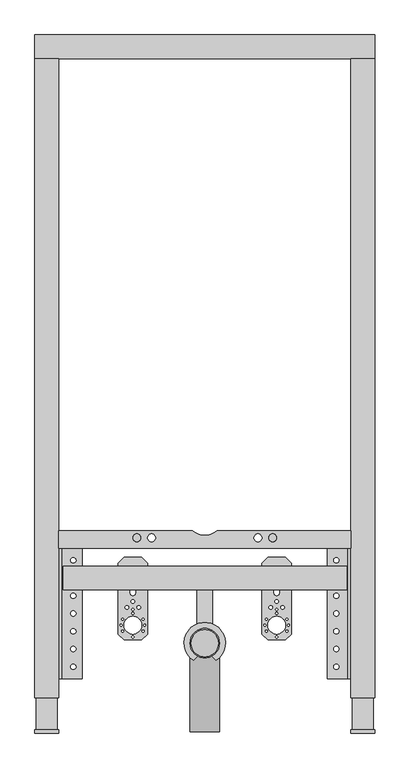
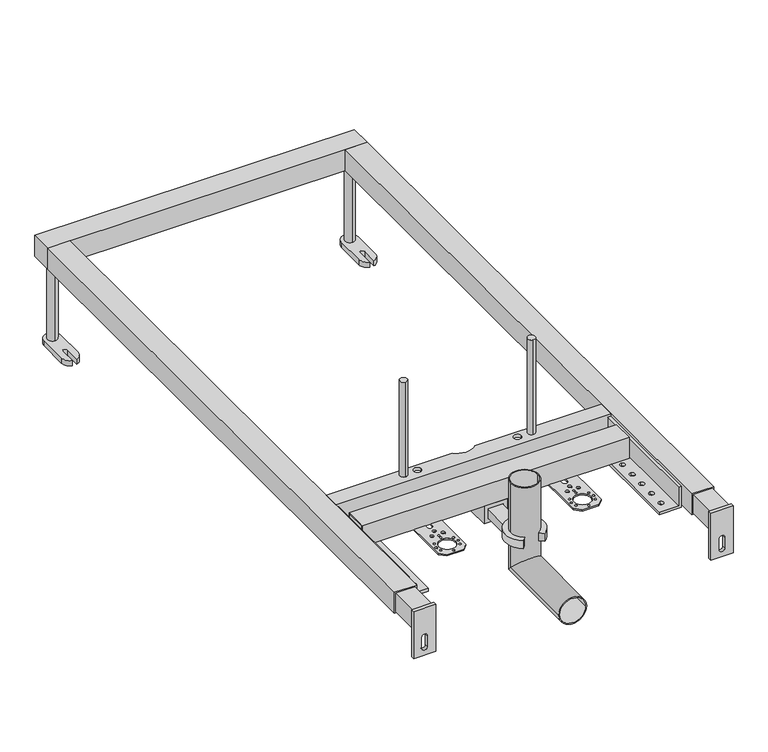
"""IFC4 building model written with IfcOpenShell, lengths in millimetres: sanitary terminal geometry, RSen_74_PF_FB_built in element bidet_wisa : bidet element_wisa_built in element bidet."""

from ifc_helpers import new_model, si_unit, point, frame, frame_2d, origin, origin_with_axes, place, context, project, spatial, polyline, circle_curve, ellipse_curve, trimmed, segment, composite_curve, outline, extrude, source, transform, mapped, element, save
from ifc_brep_helpers import plane_surface, cylinder_surface, revolved_surface, advanced_brep


def sanitary_terminal_e5c127ae(model_context):
    return source(origin(), model_context, "Body", "SolidModel", [
        advanced_brep(
        [(-25.0270797, 152.0, 260.0), (25.0270797, 152.0, 260.0), (-23.0, 152.0, 260.0), (23.0, 152.0, 260.0), (-25.0270797, 152.0, 100.0), (25.0270797, 152.0, 100.0), (-23.0, 152.0, 100.0), (23.0, 152.0, 100.0), (-25.0270797, 2.0, 100.0), (25.0270797, 2.0, 100.0), (-23.0, 2.0, 100.0), (23.0, 2.0, 100.0)],
        [
            (0, 1, circle_curve(frame((0.0, 152.0, 260.0), z_axis=(0.0, 0.0, 1.0), x_axis=(1.0, 0.0, 0.0)), 25.0270797)),
            (1, 0, circle_curve(frame((0.0, 152.0, 260.0), z_axis=(0.0, 0.0, 1.0), x_axis=(1.0, 0.0, 0.0)), 25.0270797)),
            (2, 3, circle_curve(frame((0.0, 152.0, 260.0), z_axis=(0.0, 0.0, -1.0), x_axis=(1.0, 0.0, 0.0)), 23.0)),
            (3, 2, circle_curve(frame((0.0, 152.0, 260.0), z_axis=(0.0, 0.0, -1.0), x_axis=(1.0, 0.0, 0.0)), 23.0)),
            (0, 4),
            (4, 5, ellipse_curve(frame((0.0, 152.0, 100.0), z_axis=(0.0, 0.7071067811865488, 0.7071067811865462), x_axis=(0.0, -0.7071067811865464, 0.7071067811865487)), 35.3936355, 25.0270797)),
            (5, 1),
            (5, 4, ellipse_curve(frame((0.0, 152.0, 100.0), z_axis=(0.0, 0.7071067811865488, 0.7071067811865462), x_axis=(0.0, -0.7071067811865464, 0.7071067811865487)), 35.3936355, 25.0270797)),
            (2, 6),
            (6, 7, ellipse_curve(frame((0.0, 152.0, 100.0), z_axis=(0.0, -0.7071067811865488, -0.7071067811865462), x_axis=(0.0, 0.7071067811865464, -0.7071067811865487)), 32.5269119, 23.0)),
            (7, 3),
            (7, 6, ellipse_curve(frame((0.0, 152.0, 100.0), z_axis=(0.0, -0.7071067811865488, -0.7071067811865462), x_axis=(0.0, 0.7071067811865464, -0.7071067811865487)), 32.5269119, 23.0)),
            (8, 9, circle_curve(frame((0.0, 2.0, 100.0), z_axis=(0.0, -1.0, 0.0), x_axis=(1.0, 0.0, 0.0)), 25.0270797)),
            (9, 8, circle_curve(frame((0.0, 2.0, 100.0), z_axis=(0.0, -1.0, 0.0), x_axis=(1.0, 0.0, 0.0)), 25.0270797)),
            (10, 11, circle_curve(frame((0.0, 2.0, 100.0), z_axis=(0.0, 1.0, 0.0), x_axis=(1.0, 0.0, 0.0)), 23.0)),
            (11, 10, circle_curve(frame((0.0, 2.0, 100.0), z_axis=(0.0, 1.0, 0.0), x_axis=(1.0, 0.0, 0.0)), 23.0)),
            (4, 8),
            (9, 5),
            (6, 10),
            (11, 7),
        ],
        [
            plane_surface(frame((0.0, 152.0, 260.0), z_axis=(0.0, 0.0, 1.0), x_axis=(1.0, 0.0, 0.0))),
            cylinder_surface(frame((0.0, 152.0, 260.0), z_axis=(0.0, 0.0, 1.0), x_axis=(1.0, 0.0, 0.0)), 25.0270797),
            revolved_surface(polyline([(23.0, 152.0, 77.00000002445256), (23.0, 152.0, 260.0)]), (0.0, 152.0, 260.0), (0.0, 0.0, -1.0)),
            plane_surface(frame((0.0, 2.0, 100.0), z_axis=(0.0, -1.0, 0.0), x_axis=(1.0, 0.0, 0.0))),
            cylinder_surface(frame((0.0, 152.0, 100.0), z_axis=(0.0, 1.0, 0.0), x_axis=(1.0, 0.0, 0.0)), 25.0270797),
            revolved_surface(polyline([(23.0, 2.0, 100.0), (23.0, 174.99999997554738, 100.0)]), (0.0, 152.0, 100.0), (0.0, -1.0, 0.0)),
        ],
        [
            (0, [[1, 2], [3, 4]]),
            (1, [[-1, 5, 6, 7]]),
            (1, [[-2, -7, 8, -5]]),
            (2, [[-3, 9, 10, 11]]),
            (2, [[-4, -11, 12, -9]]),
            (3, [[13, 14], [15, 16]]),
            (4, [[-6, 17, -14, 18]]),
            (4, [[-8, -18, -13, -17]]),
            (5, [[-10, 19, -16, 20]]),
            (5, [[-12, -20, -15, -19]]),
        ],
    ),
        extrude(outline(composite_curve([segment(polyline([(19.3630713, 122.8678832), (12.1158534, 130.1233388)]), True, "CONTINUOUS"), segment(trimmed(circle_curve(frame_2d((0.0376615, 152.0)), 24.9894182), [point((12.1158534, 130.1233388))], [point((-12.1911763, 130.2071904))], True, "CARTESIAN"), True, "CONTINUOUS"), segment(polyline([(-12.1911763, 130.2071904), (-19.3630713, 122.8678832)]), True, "CONTINUOUS"), segment(trimmed(circle_curve(frame_2d((0.0, 152.0238683)), 35.0), [point((-19.3630713, 122.8678832))], [point((19.3630713, 122.8678832))], False, "CARTESIAN"), True, "CONTINUOUS")], self_intersect=False)), frame((0.0, 0.0, 151.25), z_axis=(0.0, 0.0, 1.0), x_axis=(1.0, 0.0, 0.0)), (0.0, 0.0, 1.0), 15.0),
        extrude(outline(polyline([(-13.5, 282.0), (13.5, 282.0), (13.5, 182.0), (-13.5, 182.0), (-13.5, 282.0)])), frame((0.0, 0.0, 135.25), z_axis=(0.0, 0.0, 1.0), x_axis=(1.0, 0.0, 0.0)), (0.0, 0.0, 1.0), 16.0),
        extrude(outline(polyline([(160.0, -20.75), (126.5, -20.75), (126.5, 20.75), (160.0, 20.75), (160.0, -20.75)]), holes=[polyline([(152.5, -13.75), (152.5, 13.75), (134.0, 13.75), (134.0, -13.75), (152.5, -13.75)])]), frame((0.0, 242.0, 0.0), z_axis=(0.0, 1.0, 0.0), x_axis=(0.0, 0.0, 1.0)), (0.0, 0.0, 1.0), 40.0),
        extrude(outline(polyline([(-106.6959866, 297.357712), (-96.6959866, 287.357712), (-96.6959866, 167.357712), (-106.6959866, 157.357712), (-136.6959866, 157.357712), (-146.6959866, 167.357712), (-146.6959866, 287.357712), (-136.6959866, 297.357712), (-106.6959866, 297.357712)]), holes=[composite_curve([segment(trimmed(circle_curve(frame_2d((-121.6959866, 277.857712)), 4.5), [point((-117.1959866, 277.857712))], [point((-126.1959866, 277.857712))], True, "CARTESIAN"), True, "CONTINUOUS"), segment(polyline([(-126.1959866, 277.857712), (-126.1959866, 236.857712)]), True, "CONTINUOUS"), segment(trimmed(circle_curve(frame_2d((-121.6959866, 236.857712)), 4.5), [point((-126.1959866, 236.857712))], [point((-117.1959866, 236.857712))], True, "CARTESIAN"), True, "CONTINUOUS"), segment(polyline([(-117.1959866, 236.857712), (-117.1959866, 277.857712)]), True, "CONTINUOUS")], self_intersect=False), composite_curve([segment(trimmed(circle_curve(frame_2d((-121.6959866, 182.357712)), 15.0), [point((-106.6959866, 182.357712))], [point((-136.6959866, 182.357712))], True, "CARTESIAN"), True, "CONTINUOUS"), segment(trimmed(circle_curve(frame_2d((-121.6959866, 182.357712)), 15.0), [point((-136.6959866, 182.357712))], [point((-106.6959866, 182.357712))], True, "CARTESIAN"), True, "CONTINUOUS")], self_intersect=False), composite_curve([segment(trimmed(circle_curve(frame_2d((-101.6959866, 182.357712)), 1.75), [point((-99.9459866, 182.357712))], [point((-103.4459866, 182.357712))], True, "CARTESIAN"), True, "CONTINUOUS"), segment(trimmed(circle_curve(frame_2d((-101.6959866, 182.357712)), 1.75), [point((-103.4459866, 182.357712))], [point((-99.9459866, 182.357712))], True, "CARTESIAN"), True, "CONTINUOUS")], self_intersect=False), composite_curve([segment(trimmed(circle_curve(frame_2d((-121.6959866, 162.357712)), 1.75), [point((-119.9459866, 162.357712))], [point((-123.4459866, 162.357712))], True, "CARTESIAN"), True, "CONTINUOUS"), segment(trimmed(circle_curve(frame_2d((-121.6959866, 162.357712)), 1.75), [point((-123.4459866, 162.357712))], [point((-119.9459866, 162.357712))], True, "CARTESIAN"), True, "CONTINUOUS")], self_intersect=False), composite_curve([segment(trimmed(circle_curve(frame_2d((-141.6959866, 182.357712)), 1.75), [point((-139.9459866, 182.357712))], [point((-143.4459866, 182.357712))], True, "CARTESIAN"), True, "CONTINUOUS"), segment(trimmed(circle_curve(frame_2d((-141.6959866, 182.357712)), 1.75), [point((-143.4459866, 182.357712))], [point((-139.9459866, 182.357712))], True, "CARTESIAN"), True, "CONTINUOUS")], self_intersect=False), composite_curve([segment(trimmed(circle_curve(frame_2d((-121.6959866, 202.357712)), 1.75), [point((-119.9459866, 202.357712))], [point((-123.4459866, 202.357712))], True, "CARTESIAN"), True, "CONTINUOUS"), segment(trimmed(circle_curve(frame_2d((-121.6959866, 202.357712)), 1.75), [point((-123.4459866, 202.357712))], [point((-119.9459866, 202.357712))], True, "CARTESIAN"), True, "CONTINUOUS")], self_intersect=False), composite_curve([segment(trimmed(circle_curve(frame_2d((-139.0164947, 192.357712)), 1.75), [point((-137.2664947, 192.357712))], [point((-140.7664947, 192.357712))], True, "CARTESIAN"), True, "CONTINUOUS"), segment(trimmed(circle_curve(frame_2d((-139.0164947, 192.357712)), 1.75), [point((-140.7664947, 192.357712))], [point((-137.2664947, 192.357712))], True, "CARTESIAN"), True, "CONTINUOUS")], self_intersect=False), composite_curve([segment(trimmed(circle_curve(frame_2d((-139.0164947, 172.357712)), 1.75), [point((-137.2664947, 172.357712))], [point((-140.7664947, 172.357712))], True, "CARTESIAN"), True, "CONTINUOUS"), segment(trimmed(circle_curve(frame_2d((-139.0164947, 172.357712)), 1.75), [point((-140.7664947, 172.357712))], [point((-137.2664947, 172.357712))], True, "CARTESIAN"), True, "CONTINUOUS")], self_intersect=False), composite_curve([segment(trimmed(circle_curve(frame_2d((-104.3754785, 192.357712)), 1.75), [point((-102.6254785, 192.357712))], [point((-106.1254785, 192.357712))], True, "CARTESIAN"), True, "CONTINUOUS"), segment(trimmed(circle_curve(frame_2d((-104.3754785, 192.357712)), 1.75), [point((-106.1254785, 192.357712))], [point((-102.6254785, 192.357712))], True, "CARTESIAN"), True, "CONTINUOUS")], self_intersect=False), composite_curve([segment(trimmed(circle_curve(frame_2d((-104.3754785, 172.357712)), 1.75), [point((-102.6254785, 172.357712))], [point((-106.1254785, 172.357712))], True, "CARTESIAN"), True, "CONTINUOUS"), segment(trimmed(circle_curve(frame_2d((-104.3754785, 172.357712)), 1.75), [point((-106.1254785, 172.357712))], [point((-102.6254785, 172.357712))], True, "CARTESIAN"), True, "CONTINUOUS")], self_intersect=False), composite_curve([segment(trimmed(circle_curve(frame_2d((-111.6959866, 212.357712)), 3.0), [point((-108.6959866, 212.357712))], [point((-114.6959866, 212.357712))], True, "CARTESIAN"), True, "CONTINUOUS"), segment(trimmed(circle_curve(frame_2d((-111.6959866, 212.357712)), 3.0), [point((-114.6959866, 212.357712))], [point((-108.6959866, 212.357712))], True, "CARTESIAN"), True, "CONTINUOUS")], self_intersect=False), composite_curve([segment(trimmed(circle_curve(frame_2d((-121.6959866, 222.357712)), 3.0), [point((-118.6959866, 222.357712))], [point((-124.6959866, 222.357712))], True, "CARTESIAN"), True, "CONTINUOUS"), segment(trimmed(circle_curve(frame_2d((-121.6959866, 222.357712)), 3.0), [point((-124.6959866, 222.357712))], [point((-118.6959866, 222.357712))], True, "CARTESIAN"), True, "CONTINUOUS")], self_intersect=False), composite_curve([segment(trimmed(circle_curve(frame_2d((-131.6959866, 212.357712)), 3.0), [point((-128.6959866, 212.357712))], [point((-134.6959866, 212.357712))], True, "CARTESIAN"), True, "CONTINUOUS"), segment(trimmed(circle_curve(frame_2d((-131.6959866, 212.357712)), 3.0), [point((-134.6959866, 212.357712))], [point((-128.6959866, 212.357712))], True, "CARTESIAN"), True, "CONTINUOUS")], self_intersect=False), composite_curve([segment(trimmed(circle_curve(frame_2d((-121.6959866, 208.857712)), 1.75), [point((-119.9459866, 208.857712))], [point((-123.4459866, 208.857712))], True, "CARTESIAN"), True, "CONTINUOUS"), segment(trimmed(circle_curve(frame_2d((-121.6959866, 208.857712)), 1.75), [point((-123.4459866, 208.857712))], [point((-119.9459866, 208.857712))], True, "CARTESIAN"), True, "CONTINUOUS")], self_intersect=False)]), frame((0.0, 0.0, 157.5), z_axis=(0.0, 0.0, 1.0), x_axis=(1.0, 0.0, 0.0)), (0.0, 0.0, 1.0), 2.5),
        extrude(outline(polyline([(106.6959866, 297.357712), (136.6959866, 297.357712), (146.6959866, 287.357712), (146.6959866, 167.357712), (136.6959866, 157.357712), (106.6959866, 157.357712), (96.6959866, 167.357712), (96.6959866, 287.357712), (106.6959866, 297.357712)]), holes=[composite_curve([segment(polyline([(117.1959866, 277.857712), (117.1959866, 236.857712)]), True, "CONTINUOUS"), segment(trimmed(circle_curve(frame_2d((121.6959866, 236.857712)), 4.5), [point((117.1959866, 236.857712))], [point((126.1959866, 236.857712))], True, "CARTESIAN"), True, "CONTINUOUS"), segment(polyline([(126.1959866, 236.857712), (126.1959866, 277.857712)]), True, "CONTINUOUS"), segment(trimmed(circle_curve(frame_2d((121.6959866, 277.857712)), 4.5), [point((126.1959866, 277.857712))], [point((117.1959866, 277.857712))], True, "CARTESIAN"), True, "CONTINUOUS")], self_intersect=False), composite_curve([segment(trimmed(circle_curve(frame_2d((121.6959866, 182.357712)), 15.0), [point((136.6959866, 182.357712))], [point((106.6959866, 182.357712))], True, "CARTESIAN"), True, "CONTINUOUS"), segment(trimmed(circle_curve(frame_2d((121.6959866, 182.357712)), 15.0), [point((106.6959866, 182.357712))], [point((136.6959866, 182.357712))], True, "CARTESIAN"), True, "CONTINUOUS")], self_intersect=False), composite_curve([segment(trimmed(circle_curve(frame_2d((101.6959866, 182.357712)), 1.75), [point((103.4459866, 182.357712))], [point((99.9459866, 182.357712))], True, "CARTESIAN"), True, "CONTINUOUS"), segment(trimmed(circle_curve(frame_2d((101.6959866, 182.357712)), 1.75), [point((99.9459866, 182.357712))], [point((103.4459866, 182.357712))], True, "CARTESIAN"), True, "CONTINUOUS")], self_intersect=False), composite_curve([segment(trimmed(circle_curve(frame_2d((121.6959866, 162.357712)), 1.75), [point((123.4459866, 162.357712))], [point((119.9459866, 162.357712))], True, "CARTESIAN"), True, "CONTINUOUS"), segment(trimmed(circle_curve(frame_2d((121.6959866, 162.357712)), 1.75), [point((119.9459866, 162.357712))], [point((123.4459866, 162.357712))], True, "CARTESIAN"), True, "CONTINUOUS")], self_intersect=False), composite_curve([segment(trimmed(circle_curve(frame_2d((141.6959866, 182.357712)), 1.75), [point((143.4459866, 182.357712))], [point((139.9459866, 182.357712))], True, "CARTESIAN"), True, "CONTINUOUS"), segment(trimmed(circle_curve(frame_2d((141.6959866, 182.357712)), 1.75), [point((139.9459866, 182.357712))], [point((143.4459866, 182.357712))], True, "CARTESIAN"), True, "CONTINUOUS")], self_intersect=False), composite_curve([segment(trimmed(circle_curve(frame_2d((121.6959866, 202.357712)), 1.75), [point((123.4459866, 202.357712))], [point((119.9459866, 202.357712))], True, "CARTESIAN"), True, "CONTINUOUS"), segment(trimmed(circle_curve(frame_2d((121.6959866, 202.357712)), 1.75), [point((119.9459866, 202.357712))], [point((123.4459866, 202.357712))], True, "CARTESIAN"), True, "CONTINUOUS")], self_intersect=False), composite_curve([segment(trimmed(circle_curve(frame_2d((139.0164947, 192.357712)), 1.75), [point((140.7664947, 192.357712))], [point((137.2664947, 192.357712))], True, "CARTESIAN"), True, "CONTINUOUS"), segment(trimmed(circle_curve(frame_2d((139.0164947, 192.357712)), 1.75), [point((137.2664947, 192.357712))], [point((140.7664947, 192.357712))], True, "CARTESIAN"), True, "CONTINUOUS")], self_intersect=False), composite_curve([segment(trimmed(circle_curve(frame_2d((139.0164947, 172.357712)), 1.75), [point((140.7664947, 172.357712))], [point((137.2664947, 172.357712))], True, "CARTESIAN"), True, "CONTINUOUS"), segment(trimmed(circle_curve(frame_2d((139.0164947, 172.357712)), 1.75), [point((137.2664947, 172.357712))], [point((140.7664947, 172.357712))], True, "CARTESIAN"), True, "CONTINUOUS")], self_intersect=False), composite_curve([segment(trimmed(circle_curve(frame_2d((104.3754785, 192.357712)), 1.75), [point((106.1254785, 192.357712))], [point((102.6254785, 192.357712))], True, "CARTESIAN"), True, "CONTINUOUS"), segment(trimmed(circle_curve(frame_2d((104.3754785, 192.357712)), 1.75), [point((102.6254785, 192.357712))], [point((106.1254785, 192.357712))], True, "CARTESIAN"), True, "CONTINUOUS")], self_intersect=False), composite_curve([segment(trimmed(circle_curve(frame_2d((104.3754785, 172.357712)), 1.75), [point((106.1254785, 172.357712))], [point((102.6254785, 172.357712))], True, "CARTESIAN"), True, "CONTINUOUS"), segment(trimmed(circle_curve(frame_2d((104.3754785, 172.357712)), 1.75), [point((102.6254785, 172.357712))], [point((106.1254785, 172.357712))], True, "CARTESIAN"), True, "CONTINUOUS")], self_intersect=False), composite_curve([segment(trimmed(circle_curve(frame_2d((111.6959866, 212.357712)), 3.0), [point((114.6959866, 212.357712))], [point((108.6959866, 212.357712))], True, "CARTESIAN"), True, "CONTINUOUS"), segment(trimmed(circle_curve(frame_2d((111.6959866, 212.357712)), 3.0), [point((108.6959866, 212.357712))], [point((114.6959866, 212.357712))], True, "CARTESIAN"), True, "CONTINUOUS")], self_intersect=False), composite_curve([segment(trimmed(circle_curve(frame_2d((121.6959866, 222.357712)), 3.0), [point((124.6959866, 222.357712))], [point((118.6959866, 222.357712))], True, "CARTESIAN"), True, "CONTINUOUS"), segment(trimmed(circle_curve(frame_2d((121.6959866, 222.357712)), 3.0), [point((118.6959866, 222.357712))], [point((124.6959866, 222.357712))], True, "CARTESIAN"), True, "CONTINUOUS")], self_intersect=False), composite_curve([segment(trimmed(circle_curve(frame_2d((131.6959866, 212.357712)), 3.0), [point((134.6959866, 212.357712))], [point((128.6959866, 212.357712))], True, "CARTESIAN"), True, "CONTINUOUS"), segment(trimmed(circle_curve(frame_2d((131.6959866, 212.357712)), 3.0), [point((128.6959866, 212.357712))], [point((134.6959866, 212.357712))], True, "CARTESIAN"), True, "CONTINUOUS")], self_intersect=False), composite_curve([segment(trimmed(circle_curve(frame_2d((121.6959866, 208.857712)), 1.75), [point((123.4459866, 208.857712))], [point((119.9459866, 208.857712))], True, "CARTESIAN"), True, "CONTINUOUS"), segment(trimmed(circle_curve(frame_2d((121.6959866, 208.857712)), 1.75), [point((119.9459866, 208.857712))], [point((123.4459866, 208.857712))], True, "CARTESIAN"), True, "CONTINUOUS")], self_intersect=False)]), frame((0.0, 0.0, 157.5), z_axis=(0.0, 0.0, 1.0), x_axis=(1.0, 0.0, 0.0)), (0.0, 0.0, 1.0), 2.5),
        extrude(outline(composite_curve([segment(trimmed(circle_curve(frame_2d((-115.0, 330.0)), 6.65), [point((-115.0, 323.35))], [point((-115.0, 336.65))], False, "CARTESIAN"), True, "CONTINUOUS"), segment(trimmed(circle_curve(frame_2d((-115.0, 330.0)), 6.65), [point((-115.0, 336.65))], [point((-115.0, 323.35))], False, "CARTESIAN"), True, "CONTINUOUS")], self_intersect=False)), frame((0.0, 0.0, 200.0), z_axis=(0.0, 0.0, 1.0), x_axis=(1.0, 0.0, 0.0)), (0.0, 0.0, 1.0), 180.0),
        extrude(outline(composite_curve([segment(trimmed(circle_curve(frame_2d((115.0, 330.0)), 6.65), [point((115.0, 323.35))], [point((115.0, 336.65))], False, "CARTESIAN"), True, "CONTINUOUS"), segment(trimmed(circle_curve(frame_2d((115.0, 330.0)), 6.65), [point((115.0, 336.65))], [point((115.0, 323.35))], False, "CARTESIAN"), True, "CONTINUOUS")], self_intersect=False)), frame((0.0, 0.0, 200.0), z_axis=(0.0, 0.0, 1.0), x_axis=(1.0, 0.0, 0.0)), (0.0, 0.0, 1.0), 180.0),
        extrude(outline(polyline([(282.0, 200.0), (282.0, 160.0), (269.5, 160.0), (269.5, 161.5), (280.5, 161.5), (280.5, 198.5), (243.5, 198.5), (243.5, 161.5), (254.5, 161.5), (254.5, 160.0), (242.0, 160.0), (242.0, 200.0), (282.0, 200.0)])), frame((-240.0, 0.0, 0.0), z_axis=(1.0, 0.0, 0.0), x_axis=(0.0, 1.0, 0.0)), (0.0, 0.0, 1.0), 480.0),
        advanced_brep(
        [(-247.5, 92.0, 155.0), (-207.5, 92.0, 155.0), (-207.5, 92.0, 160.0), (-242.5, 92.0, 160.0), (-242.5, 92.0, 195.0), (-247.5, 92.0, 195.0), (-247.5, 312.0, 155.0), (-247.5, 312.0, 195.0), (-242.5, 312.0, 195.0), (-242.5, 312.0, 160.0), (-207.5, 312.0, 160.0), (-207.5, 312.0, 155.0), (-222.5, 116.5, 155.0), (-222.5, 107.5, 155.0), (-222.5, 146.5, 155.0), (-222.5, 137.5, 155.0), (-222.5, 176.5, 155.0), (-222.5, 167.5, 155.0), (-222.5, 206.5, 155.0), (-222.5, 197.5, 155.0), (-222.5, 236.5, 155.0), (-222.5, 227.5, 155.0), (-222.5, 266.5, 155.0), (-222.5, 257.5, 155.0), (-222.5, 296.5, 155.0), (-222.5, 287.5, 155.0), (-222.5, 107.5, 160.0), (-222.5, 116.5, 160.0), (-222.5, 137.5, 160.0), (-222.5, 146.5, 160.0), (-222.5, 167.5, 160.0), (-222.5, 176.5, 160.0), (-222.5, 197.5, 160.0), (-222.5, 206.5, 160.0), (-222.5, 227.5, 160.0), (-222.5, 236.5, 160.0), (-222.5, 257.5, 160.0), (-222.5, 266.5, 160.0), (-222.5, 287.5, 160.0), (-222.5, 296.5, 160.0)],
        [
            (0, 1),
            (1, 2),
            (2, 3),
            (3, 4),
            (4, 5),
            (5, 0),
            (6, 7),
            (7, 8),
            (8, 9),
            (9, 10),
            (10, 11),
            (11, 6),
            (0, 6),
            (11, 1),
            (12, 13, circle_curve(frame((-222.5, 112.0, 155.0), z_axis=(0.0, 0.0, 1.0), x_axis=(0.0, 1.0, 0.0)), 4.5)),
            (13, 12, circle_curve(frame((-222.5, 112.0, 155.0), z_axis=(0.0, 0.0, 1.0), x_axis=(0.0, 1.0, 0.0)), 4.5)),
            (14, 15, circle_curve(frame((-222.5, 142.0, 155.0), z_axis=(0.0, 0.0, 1.0), x_axis=(0.0, 1.0, 0.0)), 4.5)),
            (15, 14, circle_curve(frame((-222.5, 142.0, 155.0), z_axis=(0.0, 0.0, 1.0), x_axis=(0.0, 1.0, 0.0)), 4.5)),
            (16, 17, circle_curve(frame((-222.5, 172.0, 155.0), z_axis=(0.0, 0.0, 1.0), x_axis=(0.0, 1.0, 0.0)), 4.5)),
            (17, 16, circle_curve(frame((-222.5, 172.0, 155.0), z_axis=(0.0, 0.0, 1.0), x_axis=(0.0, 1.0, 0.0)), 4.5)),
            (18, 19, circle_curve(frame((-222.5, 202.0, 155.0), z_axis=(0.0, 0.0, 1.0), x_axis=(0.0, 1.0, 0.0)), 4.5)),
            (19, 18, circle_curve(frame((-222.5, 202.0, 155.0), z_axis=(0.0, 0.0, 1.0), x_axis=(0.0, 1.0, 0.0)), 4.5)),
            (20, 21, circle_curve(frame((-222.5, 232.0, 155.0), z_axis=(0.0, 0.0, 1.0), x_axis=(0.0, 1.0, 0.0)), 4.5)),
            (21, 20, circle_curve(frame((-222.5, 232.0, 155.0), z_axis=(0.0, 0.0, 1.0), x_axis=(0.0, 1.0, 0.0)), 4.5)),
            (22, 23, circle_curve(frame((-222.5, 262.0, 155.0), z_axis=(0.0, 0.0, 1.0), x_axis=(0.0, 1.0, 0.0)), 4.5)),
            (23, 22, circle_curve(frame((-222.5, 262.0, 155.0), z_axis=(0.0, 0.0, 1.0), x_axis=(0.0, 1.0, 0.0)), 4.5)),
            (24, 25, circle_curve(frame((-222.5, 292.0, 155.0), z_axis=(0.0, 0.0, 1.0), x_axis=(0.0, 1.0, 0.0)), 4.5)),
            (25, 24, circle_curve(frame((-222.5, 292.0, 155.0), z_axis=(0.0, 0.0, 1.0), x_axis=(0.0, 1.0, 0.0)), 4.5)),
            (10, 2),
            (9, 3),
            (26, 27, circle_curve(frame((-222.5, 112.0, 160.0), z_axis=(0.0, 0.0, -1.0), x_axis=(0.0, 1.0, 0.0)), 4.5)),
            (27, 26, circle_curve(frame((-222.5, 112.0, 160.0), z_axis=(0.0, 0.0, -1.0), x_axis=(0.0, 1.0, 0.0)), 4.5)),
            (28, 29, circle_curve(frame((-222.5, 142.0, 160.0), z_axis=(0.0, 0.0, -1.0), x_axis=(0.0, 1.0, 0.0)), 4.5)),
            (29, 28, circle_curve(frame((-222.5, 142.0, 160.0), z_axis=(0.0, 0.0, -1.0), x_axis=(0.0, 1.0, 0.0)), 4.5)),
            (30, 31, circle_curve(frame((-222.5, 172.0, 160.0), z_axis=(0.0, 0.0, -1.0), x_axis=(0.0, 1.0, 0.0)), 4.5)),
            (31, 30, circle_curve(frame((-222.5, 172.0, 160.0), z_axis=(0.0, 0.0, -1.0), x_axis=(0.0, 1.0, 0.0)), 4.5)),
            (32, 33, circle_curve(frame((-222.5, 202.0, 160.0), z_axis=(0.0, 0.0, -1.0), x_axis=(0.0, 1.0, 0.0)), 4.5)),
            (33, 32, circle_curve(frame((-222.5, 202.0, 160.0), z_axis=(0.0, 0.0, -1.0), x_axis=(0.0, 1.0, 0.0)), 4.5)),
            (34, 35, circle_curve(frame((-222.5, 232.0, 160.0), z_axis=(0.0, 0.0, -1.0), x_axis=(0.0, 1.0, 0.0)), 4.5)),
            (35, 34, circle_curve(frame((-222.5, 232.0, 160.0), z_axis=(0.0, 0.0, -1.0), x_axis=(0.0, 1.0, 0.0)), 4.5)),
            (36, 37, circle_curve(frame((-222.5, 262.0, 160.0), z_axis=(0.0, 0.0, -1.0), x_axis=(0.0, 1.0, 0.0)), 4.5)),
            (37, 36, circle_curve(frame((-222.5, 262.0, 160.0), z_axis=(0.0, 0.0, -1.0), x_axis=(0.0, 1.0, 0.0)), 4.5)),
            (38, 39, circle_curve(frame((-222.5, 292.0, 160.0), z_axis=(0.0, 0.0, -1.0), x_axis=(0.0, 1.0, 0.0)), 4.5)),
            (39, 38, circle_curve(frame((-222.5, 292.0, 160.0), z_axis=(0.0, 0.0, -1.0), x_axis=(0.0, 1.0, 0.0)), 4.5)),
            (8, 4),
            (7, 5),
            (12, 27),
            (26, 13),
            (14, 29),
            (28, 15),
            (16, 31),
            (30, 17),
            (18, 33),
            (32, 19),
            (20, 35),
            (34, 21),
            (22, 37),
            (36, 23),
            (24, 39),
            (38, 25),
        ],
        [
            plane_surface(frame((-247.5, 92.0, 155.0), z_axis=(0.0, -1.0, 0.0), x_axis=(1.0, 0.0, 0.0))),
            plane_surface(frame((-247.5, 312.0, 155.0), z_axis=(0.0, 1.0, 0.0), x_axis=(-1.0, 0.0, 0.0))),
            plane_surface(frame((-247.5, 92.0, 155.0), z_axis=(0.0, 0.0, -1.0), x_axis=(0.0, 1.0, 0.0))),
            plane_surface(frame((-207.5, 92.0, 155.0), z_axis=(1.0, 0.0, 0.0), x_axis=(0.0, 1.0, 0.0))),
            plane_surface(frame((-207.5, 92.0, 160.0), z_axis=(0.0, 0.0, 1.0), x_axis=(0.0, 1.0, 0.0))),
            plane_surface(frame((-242.5, 92.0, 160.0), z_axis=(1.0, 0.0, 0.0), x_axis=(0.0, 1.0, 0.0))),
            plane_surface(frame((-242.5, 92.0, 195.0), z_axis=(0.0, 0.0, 1.0), x_axis=(0.0, 1.0, 0.0))),
            plane_surface(frame((-247.5, 92.0, 195.0), z_axis=(-1.0, 0.0, 0.0), x_axis=(0.0, 1.0, 0.0))),
            revolved_surface(polyline([(-222.5, 116.5, 155.0), (-222.5, 116.5, 160.0)]), (-222.5, 112.0, 160.0), (0.0, 0.0, -1.0)),
            revolved_surface(polyline([(-222.5, 146.5, 155.0), (-222.5, 146.5, 160.0)]), (-222.5, 142.0, 160.0), (0.0, 0.0, -1.0)),
            revolved_surface(polyline([(-222.5, 176.5, 155.0), (-222.5, 176.5, 160.0)]), (-222.5, 172.0, 160.0), (0.0, 0.0, -1.0)),
            revolved_surface(polyline([(-222.5, 206.5, 155.0), (-222.5, 206.5, 160.0)]), (-222.5, 202.0, 160.0), (0.0, 0.0, -1.0)),
            revolved_surface(polyline([(-222.5, 236.5, 155.0), (-222.5, 236.5, 160.0)]), (-222.5, 232.0, 160.0), (0.0, 0.0, -1.0)),
            revolved_surface(polyline([(-222.5, 266.5, 155.0), (-222.5, 266.5, 160.0)]), (-222.5, 262.0, 160.0), (0.0, 0.0, -1.0)),
            revolved_surface(polyline([(-222.5, 296.5, 155.0), (-222.5, 296.5, 160.0)]), (-222.5, 292.0, 160.0), (0.0, 0.0, -1.0)),
        ],
        [
            (0, [[1, 2, 3, 4, 5, 6]]),
            (1, [[7, 8, 9, 10, 11, 12]]),
            (2, [[-1, 13, -12, 14], [15, 16], [17, 18], [19, 20], [21, 22], [23, 24], [25, 26], [27, 28]]),
            (3, [[-2, -14, -11, 29]]),
            (4, [[-3, -29, -10, 30], [31, 32], [33, 34], [35, 36], [37, 38], [39, 40], [41, 42], [43, 44]]),
            (5, [[-4, -30, -9, 45]]),
            (6, [[-5, -45, -8, 46]]),
            (7, [[-6, -46, -7, -13]]),
            (8, [[47, -31, 48, -15]]),
            (8, [[-47, -16, -48, -32]]),
            (9, [[49, -33, 50, -17]]),
            (9, [[-49, -18, -50, -34]]),
            (10, [[51, -35, 52, -19]]),
            (10, [[-51, -20, -52, -36]]),
            (11, [[53, -37, 54, -21]]),
            (11, [[-53, -22, -54, -38]]),
            (12, [[55, -39, 56, -23]]),
            (12, [[-55, -24, -56, -40]]),
            (13, [[57, -41, 58, -25]]),
            (13, [[-57, -26, -58, -42]]),
            (14, [[59, -43, 60, -27]]),
            (14, [[-59, -28, -60, -44]]),
        ],
    ),
        advanced_brep(
        [(247.5, 92.0, 155.0), (247.5, 92.0, 195.0), (242.5, 92.0, 195.0), (242.5, 92.0, 160.0), (207.5, 92.0, 160.0), (207.5, 92.0, 155.0), (247.5, 312.0, 155.0), (207.5, 312.0, 155.0), (207.5, 312.0, 160.0), (242.5, 312.0, 160.0), (242.5, 312.0, 195.0), (247.5, 312.0, 195.0), (222.5, 107.5, 160.0), (222.5, 116.5, 160.0), (222.5, 137.5, 160.0), (222.5, 146.5, 160.0), (222.5, 167.5, 160.0), (222.5, 176.5, 160.0), (222.5, 197.5, 160.0), (222.5, 206.5, 160.0), (222.5, 227.5, 160.0), (222.5, 236.5, 160.0), (222.5, 257.5, 160.0), (222.5, 266.5, 160.0), (222.5, 287.5, 160.0), (222.5, 296.5, 160.0), (222.5, 116.5, 155.0), (222.5, 107.5, 155.0), (222.5, 146.5, 155.0), (222.5, 137.5, 155.0), (222.5, 176.5, 155.0), (222.5, 167.5, 155.0), (222.5, 206.5, 155.0), (222.5, 197.5, 155.0), (222.5, 236.5, 155.0), (222.5, 227.5, 155.0), (222.5, 266.5, 155.0), (222.5, 257.5, 155.0), (222.5, 296.5, 155.0), (222.5, 287.5, 155.0)],
        [
            (0, 1),
            (1, 2),
            (2, 3),
            (3, 4),
            (4, 5),
            (5, 0),
            (6, 7),
            (7, 8),
            (8, 9),
            (9, 10),
            (10, 11),
            (11, 6),
            (0, 6),
            (11, 1),
            (10, 2),
            (9, 3),
            (8, 4),
            (12, 13, circle_curve(frame((222.5, 112.0, 160.0), z_axis=(0.0, 0.0, -1.0), x_axis=(0.0, 1.0, 0.0)), 4.5)),
            (13, 12, circle_curve(frame((222.5, 112.0, 160.0), z_axis=(0.0, 0.0, -1.0), x_axis=(0.0, 1.0, 0.0)), 4.5)),
            (14, 15, circle_curve(frame((222.5, 142.0, 160.0), z_axis=(0.0, 0.0, -1.0), x_axis=(0.0, 1.0, 0.0)), 4.5)),
            (15, 14, circle_curve(frame((222.5, 142.0, 160.0), z_axis=(0.0, 0.0, -1.0), x_axis=(0.0, 1.0, 0.0)), 4.5)),
            (16, 17, circle_curve(frame((222.5, 172.0, 160.0), z_axis=(0.0, 0.0, -1.0), x_axis=(0.0, 1.0, 0.0)), 4.5)),
            (17, 16, circle_curve(frame((222.5, 172.0, 160.0), z_axis=(0.0, 0.0, -1.0), x_axis=(0.0, 1.0, 0.0)), 4.5)),
            (18, 19, circle_curve(frame((222.5, 202.0, 160.0), z_axis=(0.0, 0.0, -1.0), x_axis=(0.0, 1.0, 0.0)), 4.5)),
            (19, 18, circle_curve(frame((222.5, 202.0, 160.0), z_axis=(0.0, 0.0, -1.0), x_axis=(0.0, 1.0, 0.0)), 4.5)),
            (20, 21, circle_curve(frame((222.5, 232.0, 160.0), z_axis=(0.0, 0.0, -1.0), x_axis=(0.0, 1.0, 0.0)), 4.5)),
            (21, 20, circle_curve(frame((222.5, 232.0, 160.0), z_axis=(0.0, 0.0, -1.0), x_axis=(0.0, 1.0, 0.0)), 4.5)),
            (22, 23, circle_curve(frame((222.5, 262.0, 160.0), z_axis=(0.0, 0.0, -1.0), x_axis=(0.0, 1.0, 0.0)), 4.5)),
            (23, 22, circle_curve(frame((222.5, 262.0, 160.0), z_axis=(0.0, 0.0, -1.0), x_axis=(0.0, 1.0, 0.0)), 4.5)),
            (24, 25, circle_curve(frame((222.5, 292.0, 160.0), z_axis=(0.0, 0.0, -1.0), x_axis=(0.0, 1.0, 0.0)), 4.5)),
            (25, 24, circle_curve(frame((222.5, 292.0, 160.0), z_axis=(0.0, 0.0, -1.0), x_axis=(0.0, 1.0, 0.0)), 4.5)),
            (7, 5),
            (26, 27, circle_curve(frame((222.5, 112.0, 155.0), z_axis=(0.0, 0.0, 1.0), x_axis=(0.0, 1.0, 0.0)), 4.5)),
            (27, 26, circle_curve(frame((222.5, 112.0, 155.0), z_axis=(0.0, 0.0, 1.0), x_axis=(0.0, 1.0, 0.0)), 4.5)),
            (28, 29, circle_curve(frame((222.5, 142.0, 155.0), z_axis=(0.0, 0.0, 1.0), x_axis=(0.0, 1.0, 0.0)), 4.5)),
            (29, 28, circle_curve(frame((222.5, 142.0, 155.0), z_axis=(0.0, 0.0, 1.0), x_axis=(0.0, 1.0, 0.0)), 4.5)),
            (30, 31, circle_curve(frame((222.5, 172.0, 155.0), z_axis=(0.0, 0.0, 1.0), x_axis=(0.0, 1.0, 0.0)), 4.5)),
            (31, 30, circle_curve(frame((222.5, 172.0, 155.0), z_axis=(0.0, 0.0, 1.0), x_axis=(0.0, 1.0, 0.0)), 4.5)),
            (32, 33, circle_curve(frame((222.5, 202.0, 155.0), z_axis=(0.0, 0.0, 1.0), x_axis=(0.0, 1.0, 0.0)), 4.5)),
            (33, 32, circle_curve(frame((222.5, 202.0, 155.0), z_axis=(0.0, 0.0, 1.0), x_axis=(0.0, 1.0, 0.0)), 4.5)),
            (34, 35, circle_curve(frame((222.5, 232.0, 155.0), z_axis=(0.0, 0.0, 1.0), x_axis=(0.0, 1.0, 0.0)), 4.5)),
            (35, 34, circle_curve(frame((222.5, 232.0, 155.0), z_axis=(0.0, 0.0, 1.0), x_axis=(0.0, 1.0, 0.0)), 4.5)),
            (36, 37, circle_curve(frame((222.5, 262.0, 155.0), z_axis=(0.0, 0.0, 1.0), x_axis=(0.0, 1.0, 0.0)), 4.5)),
            (37, 36, circle_curve(frame((222.5, 262.0, 155.0), z_axis=(0.0, 0.0, 1.0), x_axis=(0.0, 1.0, 0.0)), 4.5)),
            (38, 39, circle_curve(frame((222.5, 292.0, 155.0), z_axis=(0.0, 0.0, 1.0), x_axis=(0.0, 1.0, 0.0)), 4.5)),
            (39, 38, circle_curve(frame((222.5, 292.0, 155.0), z_axis=(0.0, 0.0, 1.0), x_axis=(0.0, 1.0, 0.0)), 4.5)),
            (26, 13),
            (12, 27),
            (28, 15),
            (14, 29),
            (30, 17),
            (16, 31),
            (32, 19),
            (18, 33),
            (34, 21),
            (20, 35),
            (36, 23),
            (22, 37),
            (38, 25),
            (24, 39),
        ],
        [
            plane_surface(frame((-247.5, 92.0, 155.0), z_axis=(0.0, -1.0, 0.0), x_axis=(1.0, 0.0, 0.0))),
            plane_surface(frame((-247.5, 312.0, 155.0), z_axis=(0.0, 1.0, 0.0), x_axis=(-1.0, 0.0, 0.0))),
            plane_surface(frame((247.5, 92.0, 155.0), z_axis=(1.0, 0.0, 0.0), x_axis=(0.0, 1.0, 0.0))),
            plane_surface(frame((247.5, 92.0, 195.0), z_axis=(0.0, 0.0, 1.0), x_axis=(0.0, 1.0, 0.0))),
            plane_surface(frame((242.5, 92.0, 195.0), z_axis=(-1.0, 0.0, 0.0), x_axis=(0.0, 1.0, 0.0))),
            plane_surface(frame((242.5, 92.0, 160.0), z_axis=(0.0, 0.0, 1.0), x_axis=(0.0, 1.0, 0.0))),
            plane_surface(frame((207.5, 92.0, 160.0), z_axis=(-1.0, 0.0, 0.0), x_axis=(0.0, 1.0, 0.0))),
            plane_surface(frame((207.5, 92.0, 155.0), z_axis=(0.0, 0.0, -1.0), x_axis=(0.0, 1.0, 0.0))),
            revolved_surface(polyline([(222.5, 116.5, 155.0), (222.5, 116.5, 160.0)]), (222.5, 112.0, 160.0), (0.0, 0.0, -1.0)),
            revolved_surface(polyline([(222.5, 146.5, 155.0), (222.5, 146.5, 160.0)]), (222.5, 142.0, 160.0), (0.0, 0.0, -1.0)),
            revolved_surface(polyline([(222.5, 176.5, 155.0), (222.5, 176.5, 160.0)]), (222.5, 172.0, 160.0), (0.0, 0.0, -1.0)),
            revolved_surface(polyline([(222.5, 206.5, 155.0), (222.5, 206.5, 160.0)]), (222.5, 202.0, 160.0), (0.0, 0.0, -1.0)),
            revolved_surface(polyline([(222.5, 236.5, 155.0), (222.5, 236.5, 160.0)]), (222.5, 232.0, 160.0), (0.0, 0.0, -1.0)),
            revolved_surface(polyline([(222.5, 266.5, 155.0), (222.5, 266.5, 160.0)]), (222.5, 262.0, 160.0), (0.0, 0.0, -1.0)),
            revolved_surface(polyline([(222.5, 296.5, 155.0), (222.5, 296.5, 160.0)]), (222.5, 292.0, 160.0), (0.0, 0.0, -1.0)),
        ],
        [
            (0, [[1, 2, 3, 4, 5, 6]]),
            (1, [[7, 8, 9, 10, 11, 12]]),
            (2, [[-1, 13, -12, 14]]),
            (3, [[-2, -14, -11, 15]]),
            (4, [[-3, -15, -10, 16]]),
            (5, [[-4, -16, -9, 17], [18, 19], [20, 21], [22, 23], [24, 25], [26, 27], [28, 29], [30, 31]]),
            (6, [[-5, -17, -8, 32]]),
            (7, [[-6, -32, -7, -13], [33, 34], [35, 36], [37, 38], [39, 40], [41, 42], [43, 44], [45, 46]]),
            (8, [[47, -18, 48, -33]]),
            (8, [[-47, -34, -48, -19]]),
            (9, [[49, -20, 50, -35]]),
            (9, [[-49, -36, -50, -21]]),
            (10, [[51, -22, 52, -37]]),
            (10, [[-51, -38, -52, -23]]),
            (11, [[53, -24, 54, -39]]),
            (11, [[-53, -40, -54, -25]]),
            (12, [[55, -26, 56, -41]]),
            (12, [[-55, -42, -56, -27]]),
            (13, [[57, -28, 58, -43]]),
            (13, [[-57, -44, -58, -29]]),
            (14, [[59, -30, 60, -45]]),
            (14, [[-59, -46, -60, -31]]),
        ],
    ),
        extrude(outline(composite_curve([segment(trimmed(circle_curve(frame_2d((-267.5, 1160.0)), 8.75), [point((-267.5, 1151.25))], [point((-267.5, 1168.75))], False, "CARTESIAN"), True, "CONTINUOUS"), segment(trimmed(circle_curve(frame_2d((-267.5, 1160.0)), 8.75), [point((-267.5, 1168.75))], [point((-267.5, 1151.25))], False, "CARTESIAN"), True, "CONTINUOUS")], self_intersect=False)), frame((0.0, 0.0, 10.0), z_axis=(0.0, 0.0, 1.0), x_axis=(1.0, 0.0, 0.0)), (0.0, 0.0, 1.0), 150.0),
        extrude(outline(composite_curve([segment(trimmed(circle_curve(frame_2d((267.5, 1160.0)), 8.75), [point((267.5, 1151.25))], [point((267.5, 1168.75))], False, "CARTESIAN"), True, "CONTINUOUS"), segment(trimmed(circle_curve(frame_2d((267.5, 1160.0)), 8.75), [point((267.5, 1168.75))], [point((267.5, 1151.25))], False, "CARTESIAN"), True, "CONTINUOUS")], self_intersect=False)), frame((0.0, 0.0, 10.0), z_axis=(0.0, 0.0, 1.0), x_axis=(1.0, 0.0, 0.0)), (0.0, 0.0, 1.0), 150.0),
        extrude(outline(composite_curve([segment(trimmed(circle_curve(frame_2d((-267.5, 1160.0)), 15.0), [point((-282.5, 1160.0))], [point((-252.5, 1160.0))], False, "CARTESIAN"), True, "CONTINUOUS"), segment(polyline([(-252.5, 1160.0), (-252.5, 1106.0)]), True, "CONTINUOUS"), segment(trimmed(circle_curve(frame_2d((-267.5, 1106.0)), 15.0), [point((-252.5, 1106.0))], [point((-263.5, 1091.5431677))], False, "CARTESIAN"), True, "CONTINUOUS"), segment(polyline([(-263.5, 1091.5431677), (-263.5, 1120.4568323)]), True, "CONTINUOUS"), segment(trimmed(circle_curve(frame_2d((-267.5, 1120.4568323)), 4.0), [point((-263.5, 1120.4568323))], [point((-271.5, 1120.4568323))], True, "CARTESIAN"), True, "CONTINUOUS"), segment(polyline([(-271.5, 1120.4568323), (-271.5, 1091.5431677)]), True, "CONTINUOUS"), segment(trimmed(circle_curve(frame_2d((-267.5, 1106.0)), 15.0), [point((-271.5, 1091.5431677))], [point((-282.5, 1106.0))], False, "CARTESIAN"), True, "CONTINUOUS"), segment(polyline([(-282.5, 1106.0), (-282.5, 1160.0)]), True, "CONTINUOUS")], self_intersect=False)), origin_with_axes(), (0.0, 0.0, 1.0), 10.0),
        extrude(outline(composite_curve([segment(polyline([(282.5, 1160.0), (282.5, 1106.0)]), True, "CONTINUOUS"), segment(trimmed(circle_curve(frame_2d((267.5, 1106.0)), 15.0), [point((282.5, 1106.0))], [point((271.5, 1091.5431677))], False, "CARTESIAN"), True, "CONTINUOUS"), segment(polyline([(271.5, 1091.5431677), (271.5, 1120.4568323)]), True, "CONTINUOUS"), segment(trimmed(circle_curve(frame_2d((267.5, 1120.4568323)), 4.0), [point((271.5, 1120.4568323))], [point((263.5, 1120.4568323))], True, "CARTESIAN"), True, "CONTINUOUS"), segment(polyline([(263.5, 1120.4568323), (263.5, 1091.5431677)]), True, "CONTINUOUS"), segment(trimmed(circle_curve(frame_2d((267.5, 1106.0)), 15.0), [point((263.5, 1091.5431677))], [point((252.5, 1106.0))], False, "CARTESIAN"), True, "CONTINUOUS"), segment(polyline([(252.5, 1106.0), (252.5, 1160.0)]), True, "CONTINUOUS"), segment(trimmed(circle_curve(frame_2d((267.5, 1160.0)), 15.0), [point((252.5, 1160.0))], [point((282.5, 1160.0))], False, "CARTESIAN"), True, "CONTINUOUS")], self_intersect=False)), origin_with_axes(), (0.0, 0.0, 1.0), 10.0),
        extrude(outline(polyline([(-285.0, 549.0), (-250.0, 549.0), (-250.0, 6.0), (-285.0, 6.0), (-285.0, 549.0)])), frame((0.0, 0.0, 162.5), z_axis=(0.0, 0.0, 1.0), x_axis=(1.0, 0.0, 0.0)), (0.0, 0.0, 1.0), 35.0),
        extrude(outline(polyline([(249.9841074, 549.0), (284.9841074, 549.0), (284.9841074, 6.0), (249.9841074, 6.0), (249.9841074, 549.0)])), frame((0.0, 0.0, 162.5), z_axis=(0.0, 0.0, 1.0), x_axis=(1.0, 0.0, 0.0)), (0.0, 0.0, 1.0), 35.0),
        extrude(outline(polyline([(200.0, 287.5), (200.0, 247.5), (110.0, 247.5), (110.0, 287.5), (200.0, 287.5)]), holes=[composite_curve([segment(trimmed(circle_curve(frame_2d((145.0, 267.5)), 5.0), [point((145.0, 262.5))], [point((145.0, 272.5))], True, "CARTESIAN"), True, "CONTINUOUS"), segment(polyline([(145.0, 272.5), (125.0, 272.5)]), True, "CONTINUOUS"), segment(trimmed(circle_curve(frame_2d((125.0, 267.5)), 5.0), [point((125.0, 272.5))], [point((125.0, 262.5))], True, "CARTESIAN"), True, "CONTINUOUS"), segment(polyline([(125.0, 262.5), (145.0, 262.5)]), True, "CONTINUOUS")], self_intersect=False)]), frame((0.0, 0.0, 0.0), z_axis=(0.0, 1.0, 0.0), x_axis=(0.0, 0.0, 1.0)), (0.0, 0.0, 1.0), 6.0),
        extrude(outline(polyline([(200.0, -247.5), (200.0, -287.5), (110.0, -287.5), (110.0, -247.5), (200.0, -247.5)]), holes=[composite_curve([segment(trimmed(circle_curve(frame_2d((145.0, -267.5)), 5.0), [point((145.0, -272.5))], [point((145.0, -262.5))], True, "CARTESIAN"), True, "CONTINUOUS"), segment(polyline([(145.0, -262.5), (125.0, -262.5)]), True, "CONTINUOUS"), segment(trimmed(circle_curve(frame_2d((125.0, -267.5)), 5.0), [point((125.0, -262.5))], [point((125.0, -272.5))], True, "CARTESIAN"), True, "CONTINUOUS"), segment(polyline([(125.0, -272.5), (145.0, -272.5)]), True, "CONTINUOUS")], self_intersect=False)]), frame((0.0, 0.0, 0.0), z_axis=(0.0, 1.0, 0.0), x_axis=(0.0, 0.0, 1.0)), (0.0, 0.0, 1.0), 6.0),
        advanced_brep(
        [(247.5, 317.0, 195.0), (247.5, 342.0, 195.0), (247.5, 342.0, 200.0), (247.5, 312.0, 200.0), (247.5, 312.0, 160.0), (247.5, 317.0, 160.0), (-247.5, 312.0, 200.0), (-247.5, 342.0, 200.0), (-247.5, 342.0, 195.0), (-247.5, 317.0, 195.0), (-247.5, 317.0, 160.0), (-247.5, 312.0, 160.0), (227.5, 312.0, 140.0), (-227.5, 312.0, 140.0), (-227.5, 317.0, 140.0), (227.5, 317.0, 140.0), (-20.3960781, 342.0, 195.0), (20.3960781, 342.0, 195.0), (83.35, 330.0, 195.0), (96.65, 330.0, 195.0), (108.35, 330.0, 195.0), (121.65, 330.0, 195.0), (-96.65, 330.0, 195.0), (-83.35, 330.0, 195.0), (-121.65, 330.0, 195.0), (-108.35, 330.0, 195.0), (20.3960781, 342.0, 200.0), (-20.3960781, 342.0, 200.0), (96.65, 330.0, 200.0), (83.35, 330.0, 200.0), (121.65, 330.0, 200.0), (108.35, 330.0, 200.0), (-83.35, 330.0, 200.0), (-96.65, 330.0, 200.0), (-108.35, 330.0, 200.0), (-121.65, 330.0, 200.0)],
        [
            (0, 1),
            (1, 2),
            (2, 3),
            (3, 4),
            (4, 5),
            (5, 0),
            (6, 7),
            (7, 8),
            (8, 9),
            (9, 10),
            (10, 11),
            (11, 6),
            (12, 13),
            (13, 14),
            (14, 15),
            (15, 12),
            (9, 0),
            (5, 15),
            (14, 10),
            (8, 16),
            (16, 17, circle_curve(frame((0.0, 364.0, 195.0), z_axis=(0.0, 0.0, 1.0), x_axis=(-1.0, 0.0, 0.0)), 30.0)),
            (17, 1),
            (18, 19, circle_curve(frame((90.0, 330.0, 195.0), z_axis=(0.0, 0.0, 1.0), x_axis=(-1.0, 0.0, 0.0)), 6.65)),
            (19, 18, circle_curve(frame((90.0, 330.0, 195.0), z_axis=(0.0, 0.0, 1.0), x_axis=(-1.0, 0.0, 0.0)), 6.65)),
            (20, 21, circle_curve(frame((115.0, 330.0, 195.0), z_axis=(0.0, 0.0, 1.0), x_axis=(-1.0, 0.0, 0.0)), 6.65)),
            (21, 20, circle_curve(frame((115.0, 330.0, 195.0), z_axis=(0.0, 0.0, 1.0), x_axis=(-1.0, 0.0, 0.0)), 6.65)),
            (22, 23, circle_curve(frame((-90.0, 330.0, 195.0), z_axis=(0.0, 0.0, 1.0), x_axis=(-1.0, 0.0, 0.0)), 6.65)),
            (23, 22, circle_curve(frame((-90.0, 330.0, 195.0), z_axis=(0.0, 0.0, 1.0), x_axis=(-1.0, 0.0, 0.0)), 6.65)),
            (24, 25, circle_curve(frame((-115.0, 330.0, 195.0), z_axis=(0.0, 0.0, 1.0), x_axis=(-1.0, 0.0, 0.0)), 6.65)),
            (25, 24, circle_curve(frame((-115.0, 330.0, 195.0), z_axis=(0.0, 0.0, 1.0), x_axis=(-1.0, 0.0, 0.0)), 6.65)),
            (17, 26),
            (26, 2),
            (7, 27),
            (27, 16),
            (26, 27, circle_curve(frame((0.0, 364.0, 200.0), z_axis=(0.0, 0.0, -1.0), x_axis=(-1.0, 0.0, 0.0)), 30.0)),
            (6, 3),
            (28, 29, circle_curve(frame((90.0, 330.0, 200.0), z_axis=(0.0, 0.0, -1.0), x_axis=(-1.0, 0.0, 0.0)), 6.65)),
            (29, 28, circle_curve(frame((90.0, 330.0, 200.0), z_axis=(0.0, 0.0, -1.0), x_axis=(-1.0, 0.0, 0.0)), 6.65)),
            (30, 31, circle_curve(frame((115.0, 330.0, 200.0), z_axis=(0.0, 0.0, -1.0), x_axis=(-1.0, 0.0, 0.0)), 6.65)),
            (31, 30, circle_curve(frame((115.0, 330.0, 200.0), z_axis=(0.0, 0.0, -1.0), x_axis=(-1.0, 0.0, 0.0)), 6.65)),
            (32, 33, circle_curve(frame((-90.0, 330.0, 200.0), z_axis=(0.0, 0.0, -1.0), x_axis=(-1.0, 0.0, 0.0)), 6.65)),
            (33, 32, circle_curve(frame((-90.0, 330.0, 200.0), z_axis=(0.0, 0.0, -1.0), x_axis=(-1.0, 0.0, 0.0)), 6.65)),
            (34, 35, circle_curve(frame((-115.0, 330.0, 200.0), z_axis=(0.0, 0.0, -1.0), x_axis=(-1.0, 0.0, 0.0)), 6.65)),
            (35, 34, circle_curve(frame((-115.0, 330.0, 200.0), z_axis=(0.0, 0.0, -1.0), x_axis=(-1.0, 0.0, 0.0)), 6.65)),
            (11, 13),
            (12, 4),
            (18, 29),
            (28, 19),
            (20, 31),
            (30, 21),
            (22, 33),
            (32, 23),
            (24, 35),
            (34, 25),
        ],
        [
            plane_surface(frame((247.5, 317.0, 140.0), z_axis=(1.0, 0.0, 0.0), x_axis=(0.0, 1.0, 0.0))),
            plane_surface(frame((-247.5, 317.0, 140.0), z_axis=(-1.0, 0.0, 0.0), x_axis=(0.0, -1.0, 0.0))),
            plane_surface(frame((247.5, 312.0, 140.0), z_axis=(0.0, 0.0, -1.0), x_axis=(-1.0, 0.0, 0.0))),
            plane_surface(frame((247.5, 317.0, 140.0), z_axis=(0.0, 1.0, 0.0), x_axis=(-1.0, 0.0, 0.0))),
            plane_surface(frame((247.5, 317.0, 195.0), z_axis=(0.0, 0.0, -1.0), x_axis=(-1.0, 0.0, 0.0))),
            plane_surface(frame((247.5, 342.0, 195.0), z_axis=(0.0, 1.0, 0.0), x_axis=(-1.0, 0.0, 0.0))),
            plane_surface(frame((247.5, 342.0, 200.0), z_axis=(0.0, 0.0, 1.0), x_axis=(-1.0, 0.0, 0.0))),
            plane_surface(frame((247.5, 312.0, 200.0), z_axis=(0.0, -1.0, 0.0), x_axis=(-1.0, 0.0, 0.0))),
            revolved_surface(polyline([(-30.0, 364.0, 195.0), (-30.0, 364.0, 200.0)]), (0.0, 364.0, 200.0), (0.0, 0.0, -1.0)),
            revolved_surface(polyline([(83.35, 330.0, 195.0), (83.35, 330.0, 200.0)]), (90.0, 330.0, 200.0), (0.0, 0.0, -1.0)),
            revolved_surface(polyline([(108.35, 330.0, 195.0), (108.35, 330.0, 200.0)]), (115.0, 330.0, 200.0), (0.0, 0.0, -1.0)),
            revolved_surface(polyline([(-96.65, 330.0, 195.0), (-96.65, 330.0, 200.0)]), (-90.0, 330.0, 200.0), (0.0, 0.0, -1.0)),
            revolved_surface(polyline([(-121.65, 330.0, 195.0), (-121.65, 330.0, 200.0)]), (-115.0, 330.0, 200.0), (0.0, 0.0, -1.0)),
            plane_surface(frame((-227.5, 312.0, 140.0), z_axis=(-0.7071067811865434, 0.0, -0.7071067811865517), x_axis=(0.0, 1.0, 0.0))),
            plane_surface(frame((247.5, 312.0, 160.0), z_axis=(0.7071067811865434, 0.0, -0.7071067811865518), x_axis=(0.0, 1.0, 0.0))),
        ],
        [
            (0, [[1, 2, 3, 4, 5, 6]]),
            (1, [[7, 8, 9, 10, 11, 12]]),
            (2, [[13, 14, 15, 16]]),
            (3, [[17, -6, 18, -15, 19, -10]]),
            (4, [[-1, -17, -9, 20, 21, 22], [23, 24], [25, 26], [27, 28], [29, 30]]),
            (5, [[-2, -22, 31, 32]]),
            (5, [[-8, 33, 34, -20]]),
            (6, [[-3, -32, 35, -33, -7, 36], [37, 38], [39, 40], [41, 42], [43, 44]]),
            (7, [[-36, -12, 45, -13, 46, -4]]),
            (8, [[-21, -34, -35, -31]]),
            (9, [[47, -37, 48, -23]]),
            (9, [[-47, -24, -48, -38]]),
            (10, [[49, -39, 50, -25]]),
            (10, [[-49, -26, -50, -40]]),
            (11, [[51, -41, 52, -27]]),
            (11, [[-51, -28, -52, -42]]),
            (12, [[53, -43, 54, -29]]),
            (12, [[-53, -30, -54, -44]]),
            (13, [[-11, -19, -14, -45]]),
            (14, [[-5, -46, -16, -18]]),
        ],
    ),
        extrude(outline(polyline([(-247.5, 60.0), (-287.5, 60.0), (-287.5, 1140.0), (-247.5, 1140.0), (-247.5, 60.0)])), frame((0.0, 0.0, 160.0), z_axis=(0.0, 0.0, 1.0), x_axis=(1.0, 0.0, 0.0)), (0.0, 0.0, 1.0), 40.0),
        extrude(outline(polyline([(287.5, 60.0), (247.5, 60.0), (247.5, 1140.0), (287.5, 1140.0), (287.5, 60.0)])), frame((0.0, 0.0, 160.0), z_axis=(0.0, 0.0, 1.0), x_axis=(1.0, 0.0, 0.0)), (0.0, 0.0, 1.0), 40.0),
        extrude(outline(polyline([(287.5, 1180.0), (287.5, 1140.0), (-287.5, 1140.0), (-287.5, 1180.0), (287.5, 1180.0)])), frame((0.0, 0.0, 160.0), z_axis=(0.0, 0.0, 1.0), x_axis=(1.0, 0.0, 0.0)), (0.0, 0.0, 1.0), 40.0),
    ])


if __name__ == "__main__":
    model = new_model("IFC4")
    model_context = context("Model", 3, world=origin())
    ifc_project = project(units=[si_unit("LENGTHUNIT", "METRE", prefix="MILLI")], contexts=[model_context])
    site = spatial("IfcSite", under=ifc_project)
    building = spatial("IfcBuilding", under=site)
    placement = place(None, origin())
    sanitary_terminal_shape = sanitary_terminal_e5c127ae(model_context)
    element("IfcSanitaryTerminal", 1, ObjectType="RSen_74_PF_FB_built in element bidet_wisa : bidet element_wisa_built in element bidet", at=placement, inside=building, context=model_context, shape_type="MappedRepresentation", body=[
        mapped(sanitary_terminal_shape, transform((0.0, 0.0, 0.0), x_axis=(1.0, 0.0, 0.0), y_axis=(0.0, 1.0, 0.0), z_axis=(0.0, 0.0, 1.0))),
    ])
    save(model, "model.ifc")
